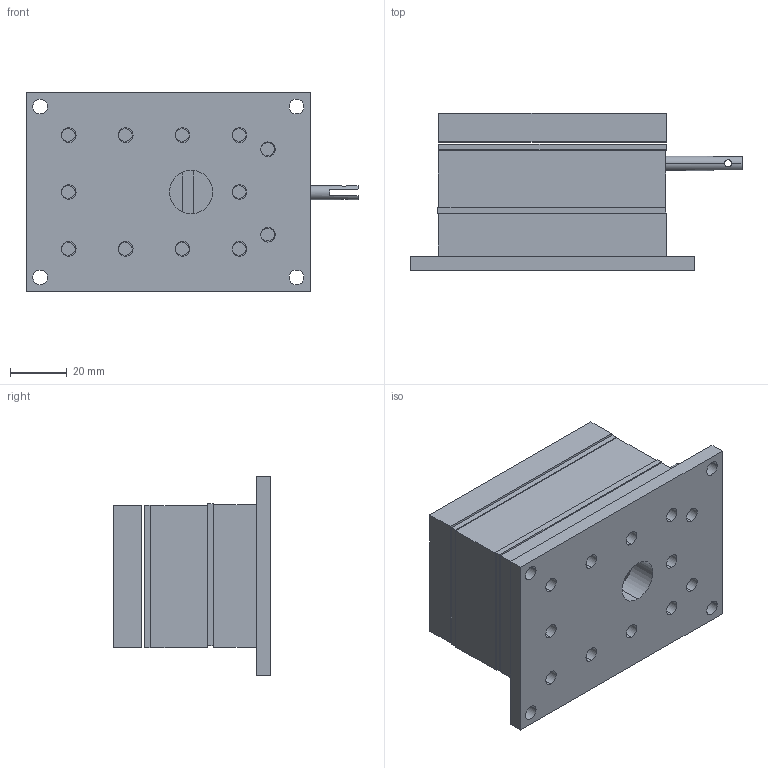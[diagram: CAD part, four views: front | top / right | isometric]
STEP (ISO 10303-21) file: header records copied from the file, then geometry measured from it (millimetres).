
FILE_DESCRIPTION (( 'STEP AP214' ), '1' );
FILE_NAME ('Slide Valve Assembly.STEP', '2019-05-17T11:49:54', ( '' ), ( '' ), 'SwSTEP 2.0', 'SolidWorks 2018', '' );
FILE_SCHEMA (( 'AUTOMOTIVE_DESIGN' ));
Length unit declared in the file: millimetre
Products named in the file (10): Part1^Slide Valve Assembly; Slide Valve Assembly; CESV-SE_P; CESV-TS; CESV-M; CESV-T; CESV-B; CESV-SPS; CESV-BS; CESV-R
Assembly tree (8 placements, depth 2):
  Part1^Slide Valve Assembly
  Slide Valve Assembly
    CESV-B
    CESV-M
    CESV-R
    CESV-SE_P
    CESV-SPS
    CESV-T
    CESV-TS
    CESV-BS
Bounding box: 116.62 x 55.19 x 70 mm (x, y, z)
Volume: 180189 mm3; surface area: 70416.2 mm2
Topology: 8 solids, 8 shells, 295 faces, 741 edges, 494 vertices
Faces by surface type: cylinder 187, plane 108
Entity records: 12876 total; most frequent: DIRECTION 1719, CARTESIAN_POINT 1637, ORIENTED_EDGE 1482, EDGE_CURVE 741, AXIS2_PLACEMENT_3D 680, VERTEX_POINT 494, EDGE_LOOP 455, CIRCLE 374
